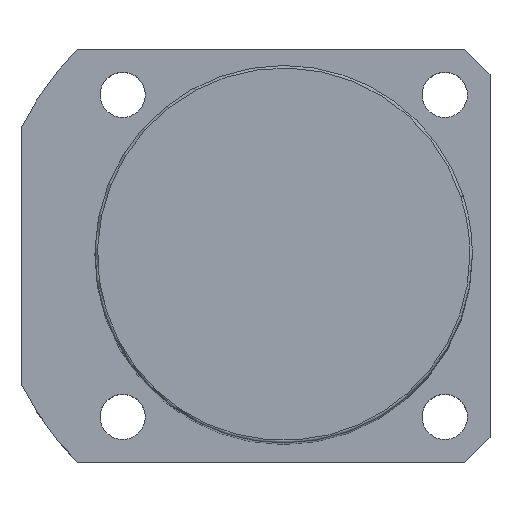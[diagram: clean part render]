
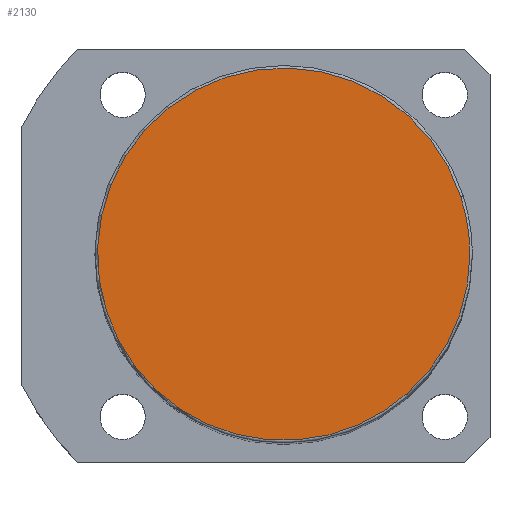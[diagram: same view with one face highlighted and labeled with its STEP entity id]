
A CAD part, top view. The second image highlights one B-rep face of the part: STEP entity #2130.
In plain terms, the highlighted planar face has unit normal (0, 0, 1).
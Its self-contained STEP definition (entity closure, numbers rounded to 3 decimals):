
#2096=CARTESIAN_POINT('',(37.0,0.0,203.0));
#2097=VERTEX_POINT('',#2096);
#2098=CARTESIAN_POINT('',(35.189,11.434,203.0));
#2099=VERTEX_POINT('',#2098);
#2100=CARTESIAN_POINT('',(0.0,0.0,203.0));
#2101=DIRECTION('',(0.0,0.0,1.0));
#2102=DIRECTION('',(1.0,0.0,0.0));
#2103=AXIS2_PLACEMENT_3D('',#2100,#2101,#2102);
#2104=CIRCLE('',#2103,37.0);
#2105=EDGE_CURVE('no 1978',#2097,#2099,#2104,.T.);
#2106=ORIENTED_EDGE('',*,*,#2105,.T.);
#2107=CARTESIAN_POINT('',(-35.189,-11.434,203.0));
#2108=VERTEX_POINT('',#2107);
#2109=CARTESIAN_POINT('',(0.0,0.0,203.0));
#2110=DIRECTION('',(0.0,0.0,1.0));
#2111=DIRECTION('',(1.0,0.0,0.0));
#2112=AXIS2_PLACEMENT_3D('',#2109,#2110,#2111);
#2113=CIRCLE('',#2112,37.0);
#2114=EDGE_CURVE('no 1984',#2099,#2108,#2113,.T.);
#2115=ORIENTED_EDGE('',*,*,#2114,.T.);
#2116=CARTESIAN_POINT('',(0.0,0.0,203.0));
#2117=DIRECTION('',(0.0,0.0,1.0));
#2118=DIRECTION('',(1.0,0.0,0.0));
#2119=AXIS2_PLACEMENT_3D('',#2116,#2117,#2118);
#2120=CIRCLE('',#2119,37.0);
#2121=EDGE_CURVE('no 1988',#2108,#2097,#2120,.T.);
#2122=ORIENTED_EDGE('',*,*,#2121,.T.);
#2123=EDGE_LOOP('',(#2106,#2115,#2122));
#2124=FACE_OUTER_BOUND('',#2123,.T.);
#2125=CARTESIAN_POINT('',(0.0,0.0,203.0));
#2126=DIRECTION('',(0.0,0.0,1.0));
#2127=DIRECTION('',(1.0,0.0,0.0));
#2128=AXIS2_PLACEMENT_3D('',#2125,#2126,#2127);
#2129=PLANE('',#2128);
#2130=ADVANCED_FACE('no 1969',(#2124),#2129,.T.);
